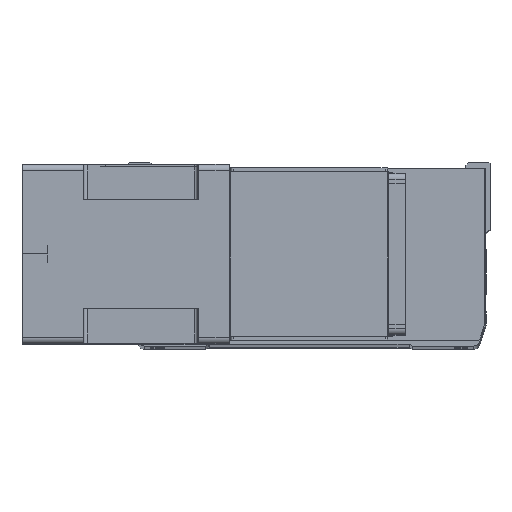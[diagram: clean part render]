
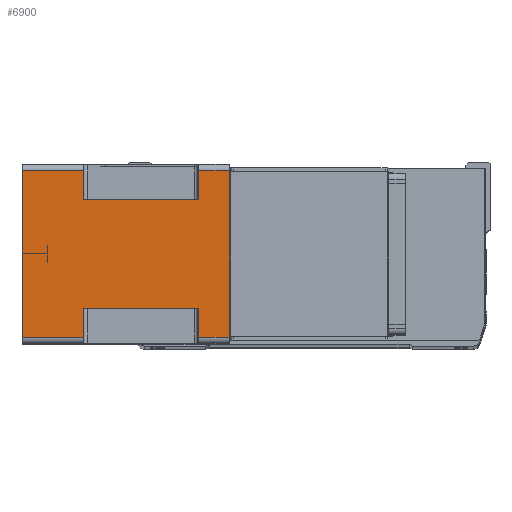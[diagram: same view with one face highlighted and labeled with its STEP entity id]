
A CAD part, top view. The second image highlights one B-rep face of the part: STEP entity #6900.
In plain terms, the highlighted planar face has unit normal (0, 0, 1) as drawn and (-1, 0, 0) by its records, which use the part's own axes.
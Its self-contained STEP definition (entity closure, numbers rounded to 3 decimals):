
#116 = CARTESIAN_POINT ( 'NONE',  ( -71., -43., -115.5 ) ) ;
#771 = VERTEX_POINT ( 'NONE', #26754 ) ;
#811 = CARTESIAN_POINT ( 'NONE',  ( -71., 66., -164. ) ) ;
#1415 = EDGE_CURVE ( 'NONE', #771, #7977, #37686, .T. ) ;
#1436 = ORIENTED_EDGE ( 'NONE', *, *, #42617, .F. ) ;
#1735 = ORIENTED_EDGE ( 'NONE', *, *, #30687, .T. ) ;
#2305 = CARTESIAN_POINT ( 'NONE',  ( -71., -43., -115.5 ) ) ;
#2456 = DIRECTION ( 'NONE',  ( 0., 1., 0. ) ) ;
#2493 = CARTESIAN_POINT ( 'NONE',  ( -71., -66., -164. ) ) ;
#2773 = VECTOR ( 'NONE', #24725, 1000. ) ;
#2827 = ORIENTED_EDGE ( 'NONE', *, *, #11858, .T. ) ;
#3105 = VERTEX_POINT ( 'NONE', #6104 ) ;
#3518 = VERTEX_POINT ( 'NONE', #38849 ) ;
#4354 = DIRECTION ( 'NONE',  ( 0., 0., 1. ) ) ;
#4618 = ORIENTED_EDGE ( 'NONE', *, *, #22824, .F. ) ;
#4642 = EDGE_CURVE ( 'NONE', #3105, #11862, #36293, .T. ) ;
#5408 = LINE ( 'NONE', #18007, #2773 ) ;
#5884 = FACE_OUTER_BOUND ( 'NONE', #26095, .T. ) ;
#5971 = VECTOR ( 'NONE', #12570, 1000. ) ;
#6104 = CARTESIAN_POINT ( 'NONE',  ( -71., 66., 0. ) ) ;
#6900 = ADVANCED_FACE ( 'NONE', ( #5884 ), #12542, .T. ) ;
#7687 = DIRECTION ( 'NONE',  ( 0., 0., 1. ) ) ;
#7977 = VERTEX_POINT ( 'NONE', #15811 ) ;
#8803 = DIRECTION ( 'NONE',  ( 0., -1., 0. ) ) ;
#9460 = VERTEX_POINT ( 'NONE', #811 ) ;
#9981 = VECTOR ( 'NONE', #35578, 1000. ) ;
#10030 = VERTEX_POINT ( 'NONE', #43952 ) ;
#10282 = VECTOR ( 'NONE', #39272, 1000. ) ;
#10968 = CARTESIAN_POINT ( 'NONE',  ( -71., 43., -164. ) ) ;
#11175 = ORIENTED_EDGE ( 'NONE', *, *, #29938, .T. ) ;
#11787 = CARTESIAN_POINT ( 'NONE',  ( -71., -43., -164. ) ) ;
#11858 = EDGE_CURVE ( 'NONE', #7977, #15974, #18677, .T. ) ;
#11862 = VERTEX_POINT ( 'NONE', #25533 ) ;
#12211 = EDGE_CURVE ( 'NONE', #10030, #15974, #42260, .T. ) ;
#12338 = CARTESIAN_POINT ( 'NONE',  ( -71., -66., 0. ) ) ;
#12542 = PLANE ( 'NONE',  #30293 ) ;
#12570 = DIRECTION ( 'NONE',  ( 0., -1., 0. ) ) ;
#13379 = VECTOR ( 'NONE', #35700, 1000. ) ;
#13669 = CARTESIAN_POINT ( 'NONE',  ( -71., -66., -164. ) ) ;
#15617 = LINE ( 'NONE', #10968, #24710 ) ;
#15811 = CARTESIAN_POINT ( 'NONE',  ( -71., -66., -115.5 ) ) ;
#15974 = VERTEX_POINT ( 'NONE', #116 ) ;
#16023 = ORIENTED_EDGE ( 'NONE', *, *, #44394, .T. ) ;
#16516 = EDGE_CURVE ( 'NONE', #32325, #3518, #29352, .T. ) ;
#17236 = VERTEX_POINT ( 'NONE', #33871 ) ;
#17878 = CARTESIAN_POINT ( 'NONE',  ( -71., -66., -24.5 ) ) ;
#17890 = ORIENTED_EDGE ( 'NONE', *, *, #41112, .F. ) ;
#17979 = CARTESIAN_POINT ( 'NONE',  ( -71., -66., -24.5 ) ) ;
#18007 = CARTESIAN_POINT ( 'NONE',  ( -71., -66., -164. ) ) ;
#18034 = EDGE_CURVE ( 'NONE', #9460, #771, #18360, .T. ) ;
#18360 = LINE ( 'NONE', #22487, #5971 ) ;
#18392 = ORIENTED_EDGE ( 'NONE', *, *, #4642, .F. ) ;
#18409 = VECTOR ( 'NONE', #7687, 1000. ) ;
#18677 = LINE ( 'NONE', #2305, #34255 ) ;
#18678 = ORIENTED_EDGE ( 'NONE', *, *, #16516, .T. ) ;
#19425 = LINE ( 'NONE', #42993, #10282 ) ;
#21217 = ORIENTED_EDGE ( 'NONE', *, *, #12211, .F. ) ;
#22209 = VERTEX_POINT ( 'NONE', #35295 ) ;
#22487 = CARTESIAN_POINT ( 'NONE',  ( -71., -66., -164. ) ) ;
#22524 = LINE ( 'NONE', #17878, #13379 ) ;
#22824 = EDGE_CURVE ( 'NONE', #17236, #3518, #15617, .T. ) ;
#23862 = DIRECTION ( 'NONE',  ( 0., 0., 1. ) ) ;
#24003 = CARTESIAN_POINT ( 'NONE',  ( -71., 66., -24.5 ) ) ;
#24710 = VECTOR ( 'NONE', #4354, 1000. ) ;
#24725 = DIRECTION ( 'NONE',  ( 0., 0., 1. ) ) ;
#25533 = CARTESIAN_POINT ( 'NONE',  ( -71., -66., 0. ) ) ;
#26095 = EDGE_LOOP ( 'NONE', ( #28257, #2827, #21217, #1735, #16023, #18392, #17890, #18678, #4618, #11175, #1436, #29380 ) ) ;
#26116 = DIRECTION ( 'NONE',  ( 0., -1., 0. ) ) ;
#26754 = CARTESIAN_POINT ( 'NONE',  ( -71., -66., -164. ) ) ;
#27431 = CARTESIAN_POINT ( 'NONE',  ( -71., 66., -164. ) ) ;
#27440 = VECTOR ( 'NONE', #23862, 1000. ) ;
#27767 = VECTOR ( 'NONE', #31490, 1000. ) ;
#28257 = ORIENTED_EDGE ( 'NONE', *, *, #1415, .T. ) ;
#28746 = VERTEX_POINT ( 'NONE', #17979 ) ;
#29352 = LINE ( 'NONE', #32413, #9981 ) ;
#29380 = ORIENTED_EDGE ( 'NONE', *, *, #18034, .T. ) ;
#29938 = EDGE_CURVE ( 'NONE', #17236, #22209, #19425, .T. ) ;
#29959 = DIRECTION ( 'NONE',  ( -1., 0., 0. ) ) ;
#30293 = AXIS2_PLACEMENT_3D ( 'NONE', #2493, #29959, #8803 ) ;
#30687 = EDGE_CURVE ( 'NONE', #10030, #28746, #22524, .T. ) ;
#31289 = LINE ( 'NONE', #38907, #18409 ) ;
#31490 = DIRECTION ( 'NONE',  ( 0., 0., 1. ) ) ;
#32325 = VERTEX_POINT ( 'NONE', #24003 ) ;
#32413 = CARTESIAN_POINT ( 'NONE',  ( -71., 43., -24.5 ) ) ;
#33871 = CARTESIAN_POINT ( 'NONE',  ( -71., 43., -115.5 ) ) ;
#34255 = VECTOR ( 'NONE', #2456, 1000. ) ;
#35295 = CARTESIAN_POINT ( 'NONE',  ( -71., 66., -115.5 ) ) ;
#35578 = DIRECTION ( 'NONE',  ( 0., -1., 0. ) ) ;
#35700 = DIRECTION ( 'NONE',  ( 0., -1., 0. ) ) ;
#35769 = VECTOR ( 'NONE', #26116, 1000. ) ;
#36293 = LINE ( 'NONE', #12338, #35769 ) ;
#37686 = LINE ( 'NONE', #13669, #27440 ) ;
#38849 = CARTESIAN_POINT ( 'NONE',  ( -71., 43., -24.5 ) ) ;
#38907 = CARTESIAN_POINT ( 'NONE',  ( -71., 66., -164. ) ) ;
#39056 = LINE ( 'NONE', #27431, #27767 ) ;
#39272 = DIRECTION ( 'NONE',  ( 0., 1., 0. ) ) ;
#41112 = EDGE_CURVE ( 'NONE', #32325, #3105, #39056, .T. ) ;
#42109 = DIRECTION ( 'NONE',  ( 0., 0., -1. ) ) ;
#42260 = LINE ( 'NONE', #11787, #43309 ) ;
#42617 = EDGE_CURVE ( 'NONE', #9460, #22209, #31289, .T. ) ;
#42993 = CARTESIAN_POINT ( 'NONE',  ( -71., -66., -115.5 ) ) ;
#43309 = VECTOR ( 'NONE', #42109, 1000. ) ;
#43952 = CARTESIAN_POINT ( 'NONE',  ( -71., -43., -24.5 ) ) ;
#44394 = EDGE_CURVE ( 'NONE', #28746, #11862, #5408, .T. ) ;
